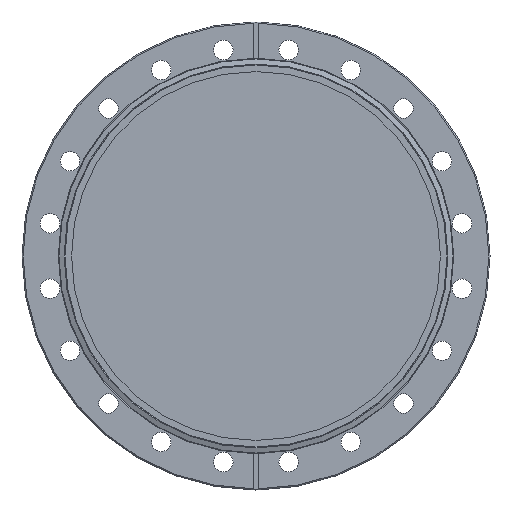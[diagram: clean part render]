
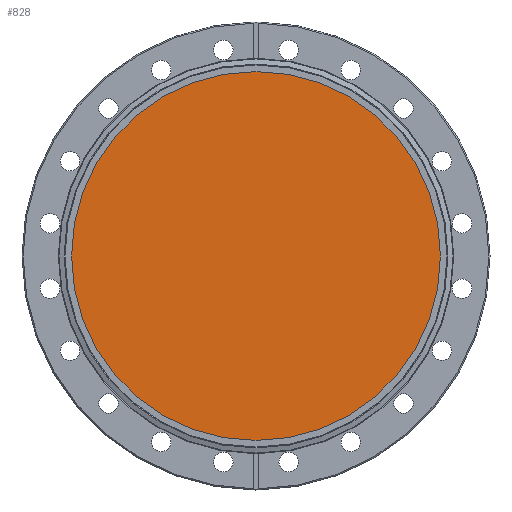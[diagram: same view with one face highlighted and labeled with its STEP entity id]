
A CAD part, front view. The second image highlights one B-rep face of the part: STEP entity #828.
In plain terms, the highlighted planar face has unit normal (0, -1, 0).
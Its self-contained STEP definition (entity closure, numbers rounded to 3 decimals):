
#61=PLANE('',#925);
#200=FACE_OUTER_BOUND('',#262,.T.);
#262=EDGE_LOOP('',(#659));
#354=CIRCLE('',#924,80.);
#434=VERTEX_POINT('',#1379);
#522=EDGE_CURVE('',#434,#434,#354,.T.);
#659=ORIENTED_EDGE('',*,*,#522,.F.);
#828=ADVANCED_FACE('',(#200),#61,.T.);
#924=AXIS2_PLACEMENT_3D('',#1381,#1109,#1110);
#925=AXIS2_PLACEMENT_3D('',#1382,#1111,#1112);
#1109=DIRECTION('center_axis',(0.,1.,0.));
#1110=DIRECTION('ref_axis',(1.,0.,0.));
#1111=DIRECTION('center_axis',(0.,-1.,0.));
#1112=DIRECTION('ref_axis',(1.,0.,0.));
#1379=CARTESIAN_POINT('',(-80.,2.5,0.));
#1381=CARTESIAN_POINT('Origin',(0.,2.5,0.));
#1382=CARTESIAN_POINT('Origin',(0.,2.5,0.));
